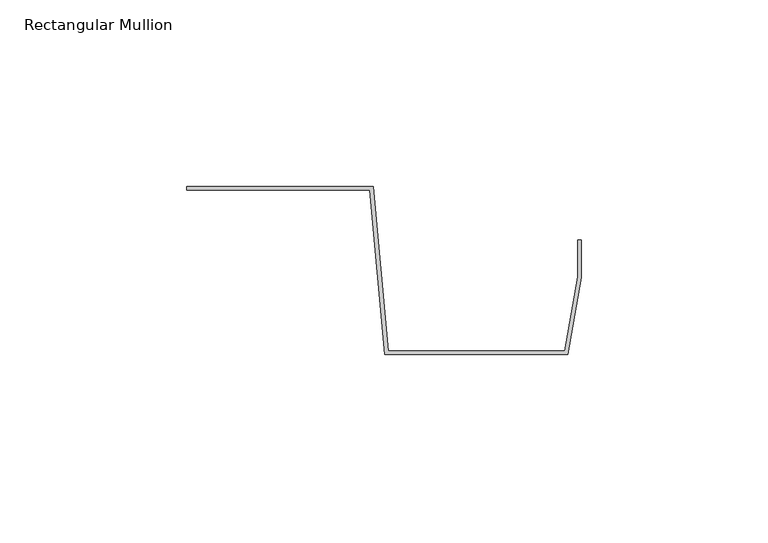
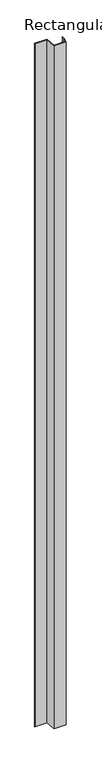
"""IFC4 building model written with IfcOpenShell, lengths in millimetres: member geometry, Rectangular Mullion : CD_NINELINE_Batten End w Pan."""

from ifc_helpers import new_model, si_unit, frame, origin, place, context, project, spatial, polyline, outline, extrude, source, transform, mapped, element, save


def rectangular_mullion_b07479b3(model_context):
    return source(origin(), model_context, "Body", "SweptSolid", [
        extrude(outline(polyline([(-56.6433895, -1.0), (-105.6433895, -1.0), (-105.6433895, 0.0), (-55.7301749, 0.0), (-51.7301749, -44.0), (-4.4824892, -44.0), (-1.0, -24.2498225), (-1.0, -14.3373112), (0.0, -14.3373112), (0.0, -24.3373112), (-3.6433895, -45.0), (-52.6433895, -45.0), (-56.6433895, -1.0)])), frame((0.0, 0.0, -2942.0), z_axis=(0.0, 0.0, 1.0), x_axis=(1.0, 0.0, 0.0)), (0.0, 0.0, 1.0), 2942.0),
    ])


if __name__ == "__main__":
    model = new_model("IFC4")
    model_context = context("Model", 3, world=origin())
    ifc_project = project(units=[si_unit("LENGTHUNIT", "METRE", prefix="MILLI")], contexts=[model_context])
    site = spatial("IfcSite", under=ifc_project)
    building = spatial("IfcBuilding", under=site)
    placement = place(None, origin())
    rectangular_mullion_shape = rectangular_mullion_b07479b3(model_context)
    element("IfcMember", 1, ObjectType="Rectangular Mullion : CD_NINELINE_Batten End w Pan", at=placement, inside=building, context=model_context, shape_type="MappedRepresentation", body=[
        mapped(rectangular_mullion_shape, transform((0.0, 0.0, 0.0), x_axis=(1.0, 0.0, 0.0), y_axis=(0.0, 1.0, 0.0), z_axis=(0.0, 0.0, 1.0))),
    ])
    save(model, "model.ifc")
